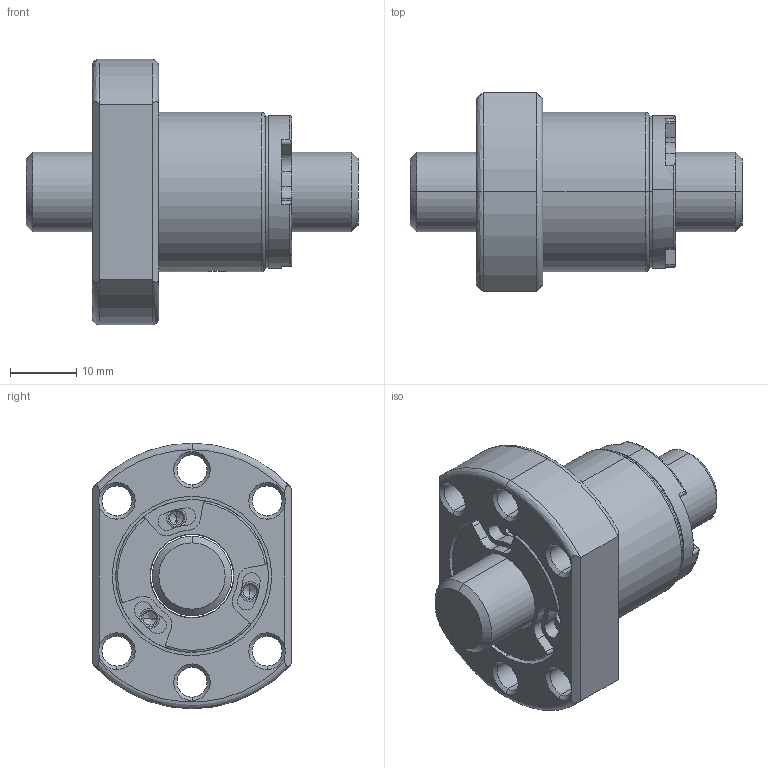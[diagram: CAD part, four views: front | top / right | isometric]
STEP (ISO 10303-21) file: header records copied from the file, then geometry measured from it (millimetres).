
FILE_DESCRIPTION (( 'STEP AP203' ), '1' );
FILE_NAME ('SFSR01205B1D-C.STEP', '2020-06-17T00:49:18', ( '' ), ( '' ), 'SwSTEP 2.0', 'SolidWorks 2013', '' );
FILE_SCHEMA (( 'CONFIG_CONTROL_DESIGN' ));
Length unit declared in the file: millimetre
Products named in the file (1): SFSR01205B1D-C
Bounding box: 50 x 30 x 40 mm (x, y, z)
Volume: 19482.6 mm3; surface area: 9458 mm2
Topology: 2 solids, 2 shells, 264 faces, 671 edges, 413 vertices
Faces by surface type: cylinder 129, plane 69, cone 52, bspline 14
Entity records: 8728 total; most frequent: CARTESIAN_POINT 2153, DIRECTION 1486, ORIENTED_EDGE 1318, EDGE_CURVE 659, AXIS2_PLACEMENT_3D 622, VERTEX_POINT 413, CIRCLE 371, EDGE_LOOP 292
